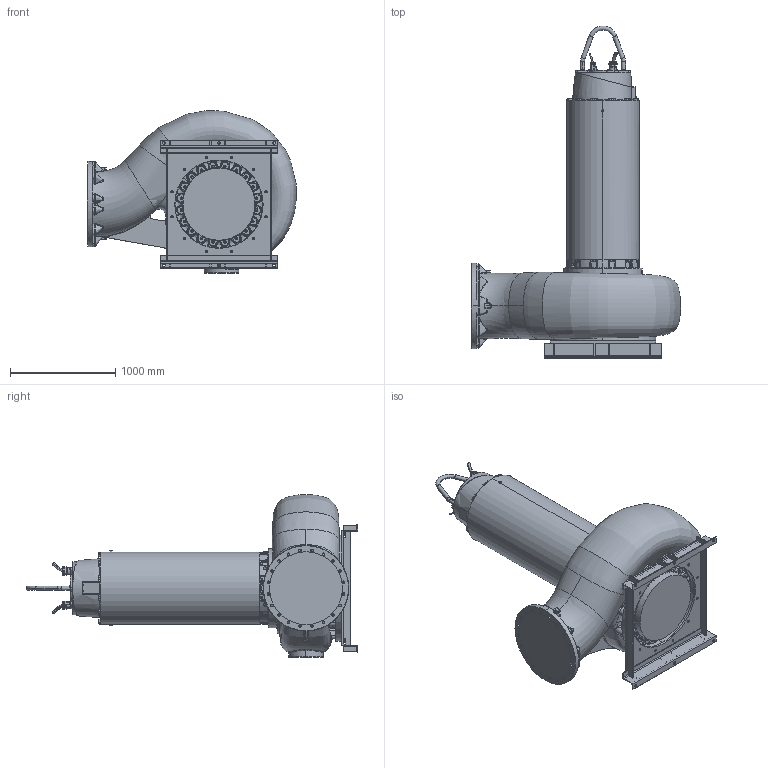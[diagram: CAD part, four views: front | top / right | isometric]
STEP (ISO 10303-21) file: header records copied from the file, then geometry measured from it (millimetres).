
FILE_DESCRIPTION (( 'STEP AP214' ), '1' );
FILE_NAME ('PE7_XFP600V-CH3_DRY_C.STEP', '2017-04-03T08:20:42', ( '' ), ( '' ), 'SwSTEP 2.0', 'SolidWorks 2017', '' );
FILE_SCHEMA (( 'AUTOMOTIVE_DESIGN' ));
Length unit declared in the file: millimetre
Products named in the file (1): PE7_XFP600V-CH3_DRY_C
Bounding box: 1987.84 x 3155.5 x 1547.05 mm (x, y, z)
Volume: 1838711575.7 mm3; surface area: 15671461.1 mm2
Topology: 3 solids, 15 shells, 3772 faces, 9399 edges, 5475 vertices
Faces by surface type: bspline 1015, plane 964, cylinder 821, cone 444, torus 331, sphere 197
Entity records: 267606 total; most frequent: CARTESIAN_POINT 145455, ORIENTED_EDGE 18212, DIRECTION 15043, EDGE_CURVE 9106, AXIS2_PLACEMENT_3D 6031, VERTEX_POINT 5475, EDGE_LOOP 4019, UNCERTAINTY_MEASURE_WITH_UNIT 3777
